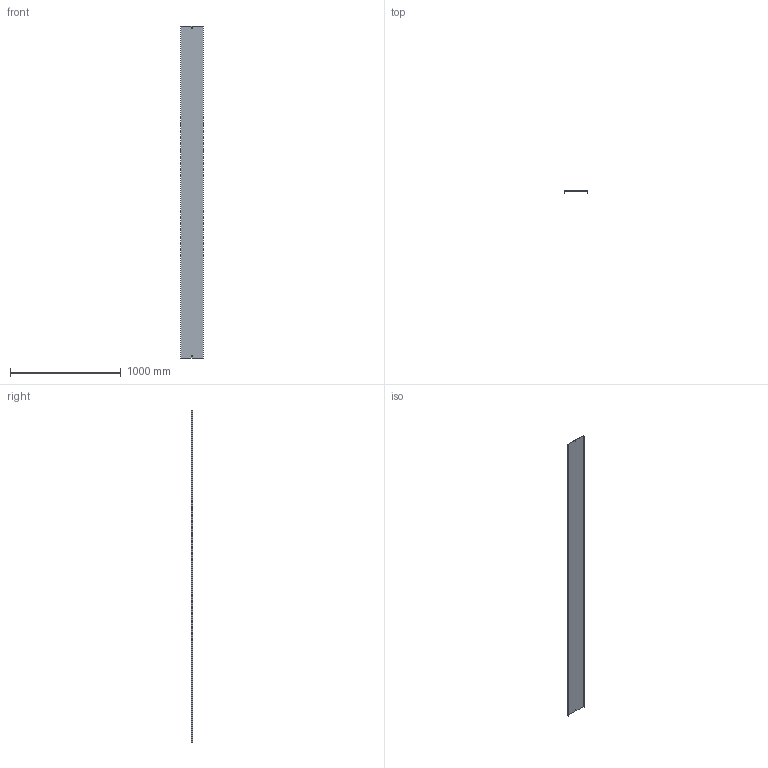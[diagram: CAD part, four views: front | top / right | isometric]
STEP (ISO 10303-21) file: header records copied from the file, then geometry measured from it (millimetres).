
FILE_DESCRIPTION (( 'STEP AP214' ), '1' );
FILE_NAME ('OCF_200.step', '2025-07-16T09:09:56', ( '' ), ( '' ), 'SwSTEP 2.0', 'SolidWorks 2023', '' );
FILE_SCHEMA (( 'AUTOMOTIVE_DESIGN' ));
Length unit declared in the file: millimetre
Products named in the file (1): OCF_200
Bounding box: 202 x 17 x 3000 mm (x, y, z)
Volume: 701916 mm3; surface area: 1410352 mm2
Topology: 1 solids, 1 shells, 18 faces, 48 edges, 32 vertices
Faces by surface type: plane 18
Entity records: 583 total; most frequent: CARTESIAN_POINT 99, ORIENTED_EDGE 96, DIRECTION 86, LINE 48, VECTOR 48, EDGE_CURVE 48, VERTEX_POINT 32, EDGE_LOOP 22
